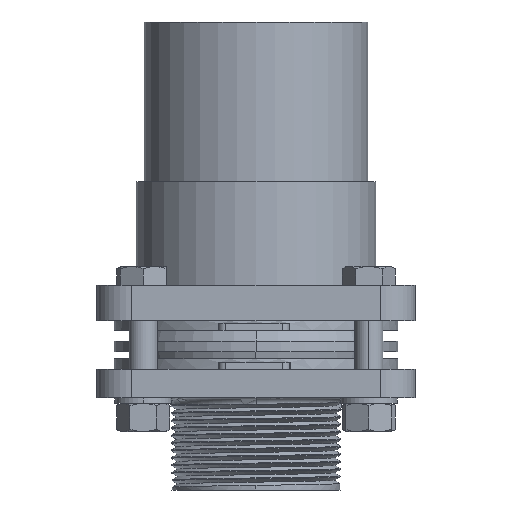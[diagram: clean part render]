
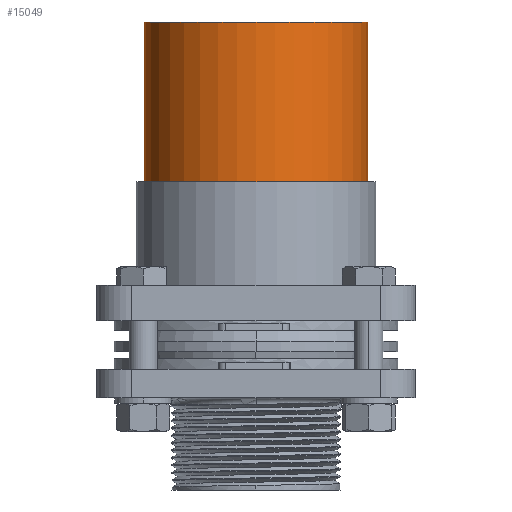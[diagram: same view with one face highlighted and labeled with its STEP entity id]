
A CAD part, front view. The second image highlights one B-rep face of the part: STEP entity #15049.
In plain terms, the highlighted cylindrical face has radius 31.5 mm (diameter 63 mm), a partial arc.
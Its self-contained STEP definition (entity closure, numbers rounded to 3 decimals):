
#1971 = VERTEX_POINT ( 'NONE', #16193 ) ;
#1979 = VERTEX_POINT ( 'NONE', #16201 ) ;
#1985 = VERTEX_POINT ( 'NONE', #16207 ) ;
#1994 = VERTEX_POINT ( 'NONE', #16216 ) ;
#4190 = AXIS2_PLACEMENT_3D ( 'NONE', #7776, #7773, #7779 ) ;
#4844 = CARTESIAN_POINT ( 'NONE',  ( 0., 0., 75. ) ) ;
#4845 = DIRECTION ( 'NONE',  ( 0., 0., 1. ) ) ;
#4846 = DIRECTION ( 'NONE',  ( 1., 0., 0. ) ) ;
#4884 = CARTESIAN_POINT ( 'NONE',  ( 0., 0., 0. ) ) ;
#4885 = DIRECTION ( 'NONE',  ( 0., 0., 1. ) ) ;
#4886 = DIRECTION ( 'NONE',  ( 1., 0., 0. ) ) ;
#4965 = LINE ( 'NONE', #4966, #14421 ) ;
#4966 = CARTESIAN_POINT ( 'NONE',  ( 31.5, 0., 75. ) ) ;
#4975 = DIRECTION ( 'NONE',  ( 0., 0., -1. ) ) ;
#5060 = LINE ( 'NONE', #5061, #14467 ) ;
#5061 = CARTESIAN_POINT ( 'NONE',  ( -31.5, 0., 75. ) ) ;
#5069 = DIRECTION ( 'NONE',  ( 0., 0., -1. ) ) ;
#5492 = ORIENTED_EDGE ( 'NONE', *, *, #12017, .F. ) ;
#5493 = ORIENTED_EDGE ( 'NONE', *, *, #11974, .F. ) ;
#5494 = ORIENTED_EDGE ( 'NONE', *, *, #12049, .T. ) ;
#7773 = DIRECTION ( 'NONE',  ( 0., 0., -1. ) ) ;
#7775 = FACE_OUTER_BOUND ( 'NONE', #8192, .T. ) ;
#7776 = CARTESIAN_POINT ( 'NONE',  ( 0., 0., 75. ) ) ;
#7778 = CYLINDRICAL_SURFACE ( 'NONE', #4190, 31.5 ) ;
#7779 = DIRECTION ( 'NONE',  ( -1., 0., 0. ) ) ;
#8192 = EDGE_LOOP ( 'NONE', ( #5492, #5493, #5494, #14692 ) ) ;
#11974 = EDGE_CURVE ( 'NONE', #1971, #1994, #16012, .T. ) ;
#11988 = EDGE_CURVE ( 'NONE', #1985, #1979, #16038, .T. ) ;
#12017 = EDGE_CURVE ( 'NONE', #1994, #1979, #4965, .T. ) ;
#12049 = EDGE_CURVE ( 'NONE', #1971, #1985, #5060, .T. ) ;
#14421 = VECTOR ( 'NONE', #4975, 1000. ) ;
#14467 = VECTOR ( 'NONE', #5069, 1000. ) ;
#14692 = ORIENTED_EDGE ( 'NONE', *, *, #11988, .T. ) ;
#15049 = ADVANCED_FACE ( 'NONE', ( #7775 ), #7778, .T. ) ;
#16012 = CIRCLE ( 'NONE', #16016, 31.5 ) ;
#16016 = AXIS2_PLACEMENT_3D ( 'NONE', #4844, #4845, #4846 ) ;
#16038 = CIRCLE ( 'NONE', #16041, 31.5 ) ;
#16041 = AXIS2_PLACEMENT_3D ( 'NONE', #4884, #4885, #4886 ) ;
#16193 = CARTESIAN_POINT ( 'NONE',  ( -31.5, 0., 75. ) ) ;
#16201 = CARTESIAN_POINT ( 'NONE',  ( 31.5, 0., 0. ) ) ;
#16207 = CARTESIAN_POINT ( 'NONE',  ( -31.5, 0., 0. ) ) ;
#16216 = CARTESIAN_POINT ( 'NONE',  ( 31.5, 0., 75. ) ) ;
